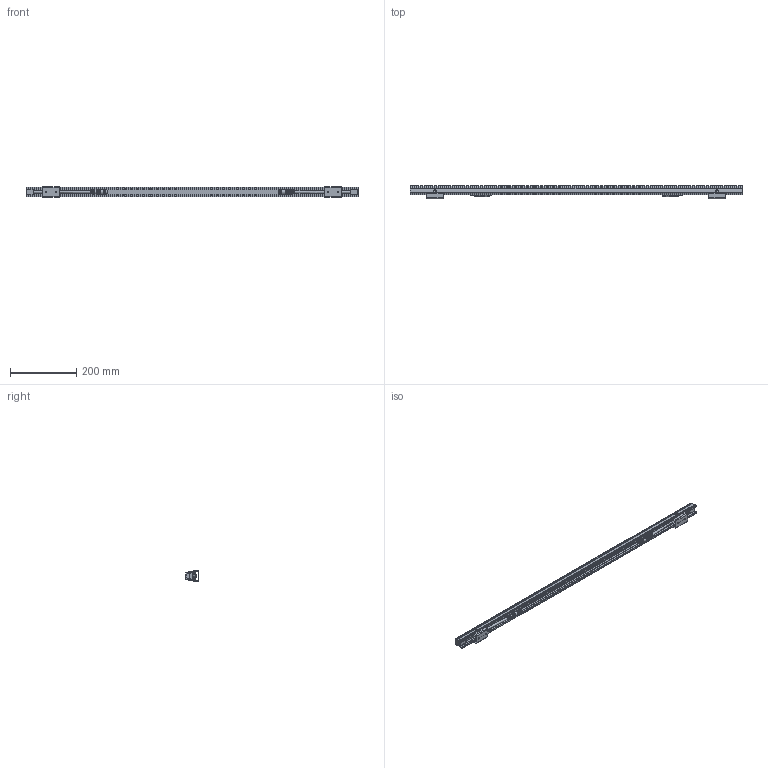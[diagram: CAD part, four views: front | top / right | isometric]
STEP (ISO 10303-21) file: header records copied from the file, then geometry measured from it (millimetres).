
FILE_DESCRIPTION (( 'STEP AP214' ), '1' );
FILE_NAME ('DiGi Linear M-Serie L1000.STEP', '2025-08-11T07:15:24', ( '' ), ( '' ), 'SwSTEP 2.0', 'SolidWorks 2025', '' );
FILE_SCHEMA (( 'AUTOMOTIVE_DESIGN' ));
Length unit declared in the file: millimetre
Products named in the file (7): Counter sunk screw torx_M2x6; M12 3p Female; Part1^DiGi Linear M-Serie_L1000; DiGi Linear M-Series - Bracket; M12 3p Male; DiGi Linear M-Series - Body_L1000; DiGi Linear M-Serie L1000
Assembly tree (14 placements, depth 2):
  DiGi Linear M-Serie L1000
    DiGi Linear M-Series - Body_L1000
    DiGi Linear M-Series - Bracket  x2
    M12 3p Female
    M12 3p Male
    Part1^DiGi Linear M-Serie_L1000
    Counter sunk screw torx_M2x6  x8
Bounding box: 1000 x 39.95 x 31.2 mm (x, y, z)
Volume: 410163.3 mm3; surface area: 215015 mm2
Topology: 15 solids, 87 shells, 4952 faces, 11205 edges, 6750 vertices
Faces by surface type: plane 2021, cylinder 1910, sphere 584, bspline 188, torus 161, cone 88
Full cylindrical faces by diameter (mm): 2 x12, 3 x8, 4.5 x76, 8 x4, 9.7 x1, 10.8 x1, 12.3 x1, 14.3 x2
Entity records: 148403 total; most frequent: CARTESIAN_POINT 34868, DIRECTION 21640, ORIENTED_EDGE 21212, EDGE_CURVE 10606, AXIS2_PLACEMENT_3D 7864, VERTEX_POINT 6430, LINE 5912, VECTOR 5912
